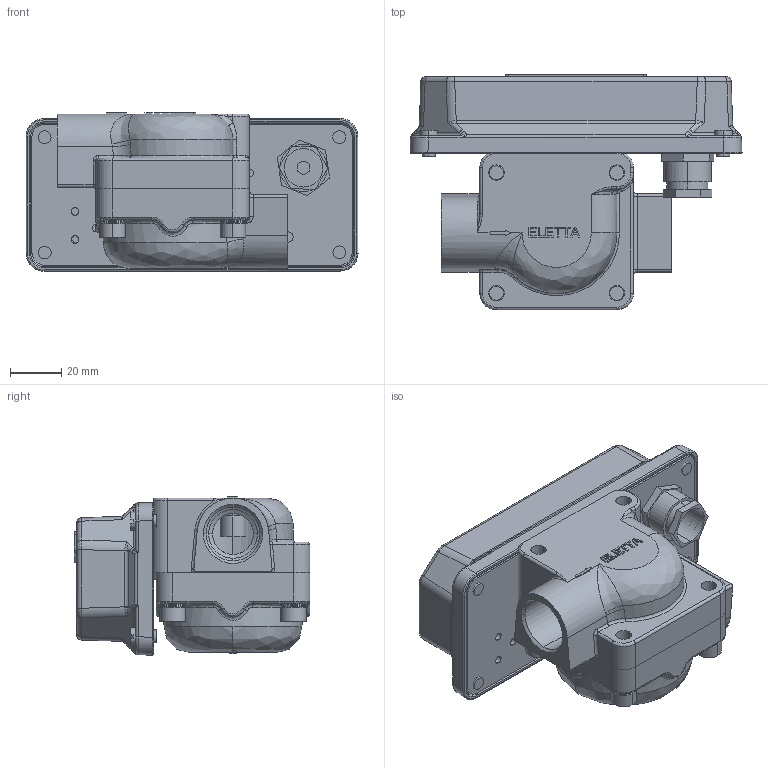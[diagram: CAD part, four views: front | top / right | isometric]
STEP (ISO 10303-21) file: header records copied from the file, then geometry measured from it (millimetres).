
FILE_DESCRIPTION (( 'STEP AP214' ), '1' );
FILE_NAME ('SP-G15.STEP', '2016-09-21T13:15:32', ( 'User' ), ( 'HP' ), 'SwSTEP 2.0', 'SolidWorks 2016', '' );
FILE_SCHEMA (( 'AUTOMOTIVE_DESIGN' ));
Length unit declared in the file: millimetre
Products named in the file (8): ID_1_4; ID_1_3; ID_1_2; ID_1; SP-G15; ID_4; ID_3; ID_2
Assembly tree (13 placements, depth 2):
  SP-G15
    ID_1
    ID_1_2
    ID_1_3  x4
    ID_1_4
    ID_2
    ID_3
    ID_4  x4
Bounding box: 129.59 x 92 x 61.85 mm (x, y, z)
Volume: 175950.7 mm3; surface area: 95805.5 mm2
Topology: 13 solids, 13 shells, 1179 faces, 2895 edges, 1783 vertices
Faces by surface type: plane 453, cylinder 385, bspline 269, cone 72
Entity records: 55042 total; most frequent: CARTESIAN_POINT 32210, ORIENTED_EDGE 5118, DIRECTION 3802, EDGE_CURVE 2559, VERTEX_POINT 1591, VECTOR 1328, LINE 1328, AXIS2_PLACEMENT_3D 1237
